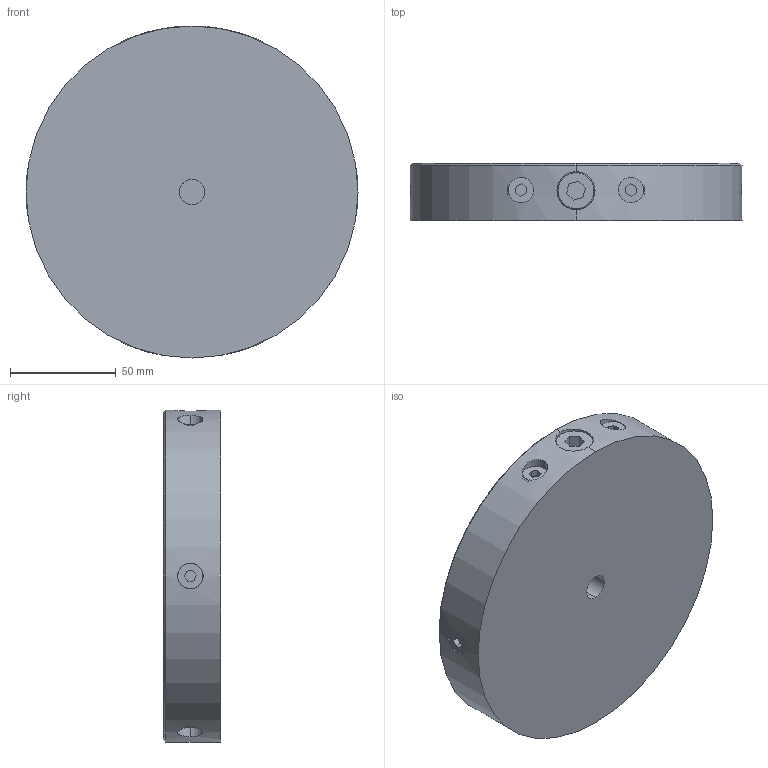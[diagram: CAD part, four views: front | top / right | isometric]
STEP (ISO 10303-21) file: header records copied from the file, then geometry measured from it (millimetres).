
FILE_DESCRIPTION (( 'STEP AP203' ), '1' );
FILE_NAME ('45901.STEP', '2018-10-29T09:57:01', ( '' ), ( '' ), 'SwSTEP 2.0', 'SolidWorks 2015', '' );
FILE_SCHEMA (( 'CONFIG_CONTROL_DESIGN' ));
Length unit declared in the file: millimetre
Products named in the file (1): 45901
Bounding box: 157 x 27 x 157 mm (x, y, z)
Volume: 456634.2 mm3; surface area: 76774.3 mm2
Topology: 8 solids, 8 shells, 173 faces, 417 edges, 259 vertices
Faces by surface type: plane 73, cylinder 62, cone 30, torus 8
Entity records: 6392 total; most frequent: CARTESIAN_POINT 2344, ORIENTED_EDGE 834, DIRECTION 799, EDGE_CURVE 417, AXIS2_PLACEMENT_3D 286, VERTEX_POINT 259, LINE 227, VECTOR 227
